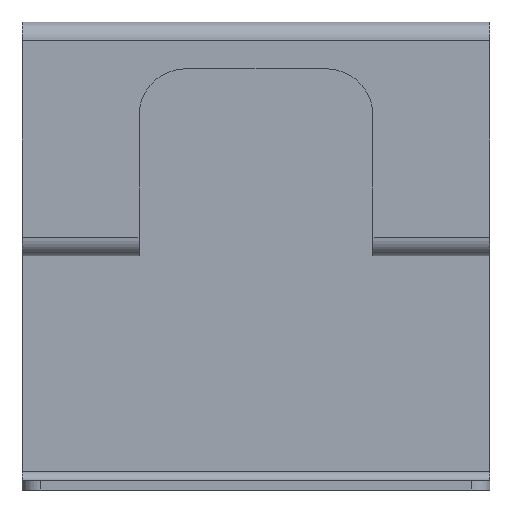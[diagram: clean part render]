
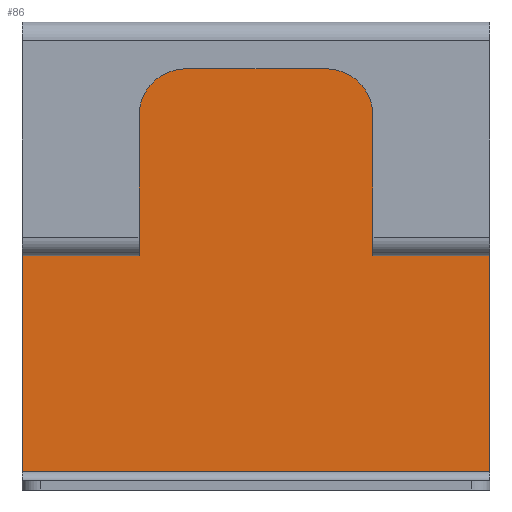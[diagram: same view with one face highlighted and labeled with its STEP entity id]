
A CAD part, front view. The second image highlights one B-rep face of the part: STEP entity #86.
In plain terms, the highlighted planar face has unit normal (0, -1, 0).
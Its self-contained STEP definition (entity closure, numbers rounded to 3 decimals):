
#31 = EDGE_CURVE ( 'NONE', #76, #644, #154, .T. ) ;
#35 = CARTESIAN_POINT ( 'NONE',  ( -25., 19., 47. ) ) ;
#76 = VERTEX_POINT ( 'NONE', #1286 ) ;
#86 = ADVANCED_FACE ( 'NONE', ( #633 ), #745, .T. ) ;
#154 = LINE ( 'NONE', #527, #1625 ) ;
#178 = EDGE_CURVE ( 'NONE', #644, #922, #1393, .T. ) ;
#371 = EDGE_CURVE ( 'NONE', #922, #1312, #870, .T. ) ;
#462 = CARTESIAN_POINT ( 'NONE',  ( 25., 19., 1. ) ) ;
#466 = CARTESIAN_POINT ( 'NONE',  ( -25., 19., 49. ) ) ;
#525 = DIRECTION ( 'NONE',  ( 1., 0., 0. ) ) ;
#527 = CARTESIAN_POINT ( 'NONE',  ( 25., 19., 0. ) ) ;
#545 = CARTESIAN_POINT ( 'NONE',  ( 25., 19., 1. ) ) ;
#591 = CARTESIAN_POINT ( 'NONE',  ( -25., 19., 1. ) ) ;
#603 = ORIENTED_EDGE ( 'NONE', *, *, #178, .F. ) ;
#625 = EDGE_CURVE ( 'NONE', #1312, #76, #1367, .T. ) ;
#633 = FACE_OUTER_BOUND ( 'NONE', #715, .T. ) ;
#644 = VERTEX_POINT ( 'NONE', #545 ) ;
#715 = EDGE_LOOP ( 'NONE', ( #731, #1142, #1391, #603 ) ) ;
#731 = ORIENTED_EDGE ( 'NONE', *, *, #31, .F. ) ;
#745 = PLANE ( 'NONE',  #1487 ) ;
#793 = VECTOR ( 'NONE', #1500, 1000. ) ;
#797 = DIRECTION ( 'NONE',  ( 0., 0., -1. ) ) ;
#870 = LINE ( 'NONE', #466, #1304 ) ;
#887 = DIRECTION ( 'NONE',  ( 0., -1., 0. ) ) ;
#922 = VERTEX_POINT ( 'NONE', #591 ) ;
#1003 = DIRECTION ( 'NONE',  ( 0., 0., 1. ) ) ;
#1023 = CARTESIAN_POINT ( 'NONE',  ( 0., 19., 0. ) ) ;
#1038 = VECTOR ( 'NONE', #525, 1000. ) ;
#1142 = ORIENTED_EDGE ( 'NONE', *, *, #625, .F. ) ;
#1164 = DIRECTION ( 'NONE',  ( 0., 0., -1. ) ) ;
#1209 = CARTESIAN_POINT ( 'NONE',  ( -25., 19., 47. ) ) ;
#1286 = CARTESIAN_POINT ( 'NONE',  ( 25., 19., 47. ) ) ;
#1304 = VECTOR ( 'NONE', #1003, 1000. ) ;
#1312 = VERTEX_POINT ( 'NONE', #35 ) ;
#1367 = LINE ( 'NONE', #1209, #1038 ) ;
#1391 = ORIENTED_EDGE ( 'NONE', *, *, #371, .F. ) ;
#1393 = LINE ( 'NONE', #462, #793 ) ;
#1487 = AXIS2_PLACEMENT_3D ( 'NONE', #1023, #887, #1164 ) ;
#1500 = DIRECTION ( 'NONE',  ( -1., 0., 0. ) ) ;
#1625 = VECTOR ( 'NONE', #797, 1000. ) ;
